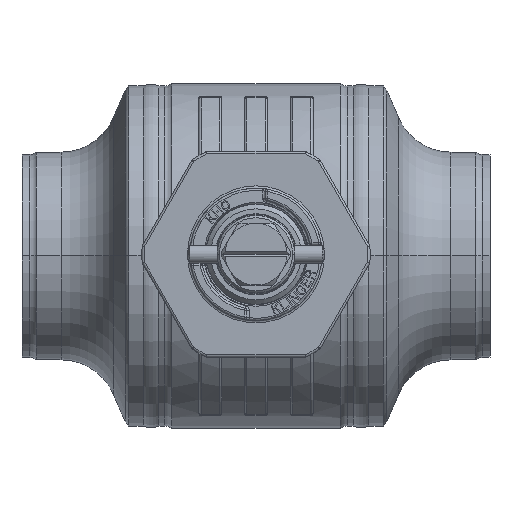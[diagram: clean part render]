
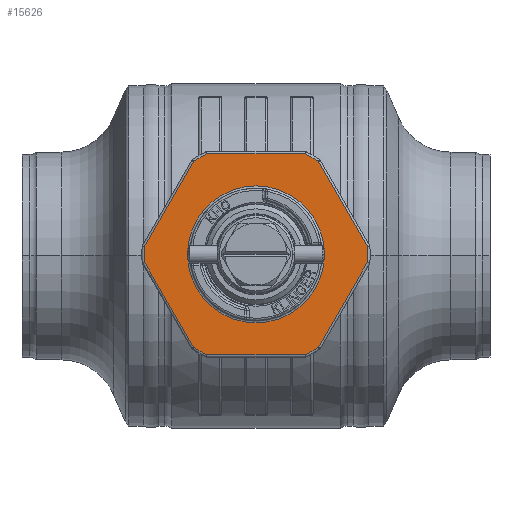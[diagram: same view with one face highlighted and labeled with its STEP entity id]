
A CAD part, top view. The second image highlights one B-rep face of the part: STEP entity #15626.
In plain terms, the highlighted planar face has unit normal (0, 0, 1).
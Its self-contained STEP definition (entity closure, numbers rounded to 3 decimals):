
#1506=CARTESIAN_POINT('',(0.,0.,406.));
#1507=DIRECTION('',(0.,0.,-1.));
#1508=DIRECTION('',(-0.558,0.83,0.));
#1509=AXIS2_PLACEMENT_3D('',#1506,#1507,#1508);
#1511=DIRECTION('',(-1.,0.,0.));
#1512=VECTOR('',#1511,43.128);
#1513=CARTESIAN_POINT('',(21.564,44.,406.));
#1514=LINE('',#1513,#1512);
#1515=CARTESIAN_POINT('',(0.,0.,406.));
#1516=DIRECTION('',(0.,0.,1.));
#1517=DIRECTION('',(0.558,0.83,0.));
#1518=AXIS2_PLACEMENT_3D('',#1515,#1516,#1517);
#1520=DIRECTION('',(-0.5,0.866,0.));
#1521=VECTOR('',#1520,43.128);
#1522=CARTESIAN_POINT('',(48.887,3.325,406.));
#1523=LINE('',#1522,#1521);
#1524=CARTESIAN_POINT('',(0.,0.,406.));
#1525=DIRECTION('',(0.,0.,1.));
#1526=DIRECTION('',(0.998,-0.068,0.));
#1527=AXIS2_PLACEMENT_3D('',#1524,#1525,#1526);
#1529=DIRECTION('',(0.5,0.866,0.));
#1530=VECTOR('',#1529,43.128);
#1531=CARTESIAN_POINT('',(27.323,-40.675,406.));
#1532=LINE('',#1531,#1530);
#1533=CARTESIAN_POINT('',(0.,0.,406.));
#1534=DIRECTION('',(0.,0.,1.));
#1535=DIRECTION('',(0.44,-0.898,0.));
#1536=AXIS2_PLACEMENT_3D('',#1533,#1534,#1535);
#1538=DIRECTION('',(1.,0.,0.));
#1539=VECTOR('',#1538,43.128);
#1540=CARTESIAN_POINT('',(-21.564,-44.,406.));
#1541=LINE('',#1540,#1539);
#1542=CARTESIAN_POINT('',(0.,0.,406.));
#1543=DIRECTION('',(0.,0.,1.));
#1544=DIRECTION('',(-0.558,-0.83,0.));
#1545=AXIS2_PLACEMENT_3D('',#1542,#1543,#1544);
#1547=DIRECTION('',(0.5,-0.866,0.));
#1548=VECTOR('',#1547,43.128);
#1549=CARTESIAN_POINT('',(-48.887,-3.325,406.));
#1550=LINE('',#1549,#1548);
#1551=CARTESIAN_POINT('',(0.,0.,406.));
#1552=DIRECTION('',(0.,0.,-1.));
#1553=DIRECTION('',(-0.998,-0.068,0.));
#1554=AXIS2_PLACEMENT_3D('',#1551,#1552,#1553);
#1556=DIRECTION('',(-0.5,-0.866,0.));
#1557=VECTOR('',#1556,43.128);
#1558=CARTESIAN_POINT('',(-27.323,40.675,406.));
#1559=LINE('',#1558,#1557);
#1560=CARTESIAN_POINT('',(0.,0.,406.));
#1561=DIRECTION('',(0.,0.,1.));
#1562=DIRECTION('',(1.,0.,0.));
#1563=AXIS2_PLACEMENT_3D('',#1560,#1561,#1562);
#1565=CARTESIAN_POINT('',(0.,0.,406.));
#1566=DIRECTION('',(0.,0.,1.));
#1567=DIRECTION('',(-1.,0.,0.));
#1568=AXIS2_PLACEMENT_3D('',#1565,#1566,#1567);
#12895=CARTESIAN_POINT('',(30.,0.,406.));
#12896=CARTESIAN_POINT('',(-30.,0.,406.));
#12897=VERTEX_POINT('',#12895);
#12898=VERTEX_POINT('',#12896);
#13077=CARTESIAN_POINT('',(-48.887,-3.325,406.));
#13078=CARTESIAN_POINT('',(-48.887,3.325,406.));
#13079=VERTEX_POINT('',#13077);
#13080=VERTEX_POINT('',#13078);
#13101=CARTESIAN_POINT('',(-27.323,40.675,406.));
#13102=VERTEX_POINT('',#13101);
#13103=CARTESIAN_POINT('',(-21.564,44.,406.));
#13104=VERTEX_POINT('',#13103);
#13122=CARTESIAN_POINT('',(-27.323,-40.675,406.));
#13124=VERTEX_POINT('',#13122);
#13127=CARTESIAN_POINT('',(-21.564,-44.,406.));
#13128=VERTEX_POINT('',#13127);
#13133=CARTESIAN_POINT('',(21.564,-44.,406.));
#13134=VERTEX_POINT('',#13133);
#13139=CARTESIAN_POINT('',(27.323,-40.675,406.));
#13140=VERTEX_POINT('',#13139);
#13145=CARTESIAN_POINT('',(48.887,-3.325,406.));
#13146=VERTEX_POINT('',#13145);
#13151=CARTESIAN_POINT('',(48.887,3.325,406.));
#13152=VERTEX_POINT('',#13151);
#13157=CARTESIAN_POINT('',(27.323,40.675,406.));
#13158=VERTEX_POINT('',#13157);
#13163=CARTESIAN_POINT('',(21.564,44.,406.));
#13164=VERTEX_POINT('',#13163);
#15590=CARTESIAN_POINT('',(0.,0.,406.));
#15591=DIRECTION('',(0.,0.,1.));
#15592=DIRECTION('',(1.,0.,0.));
#15593=AXIS2_PLACEMENT_3D('',#15590,#15591,#15592);
#15594=PLANE('',#15593);
#15596=ORIENTED_EDGE('',*,*,#15595,.T.);
#15598=ORIENTED_EDGE('',*,*,#15597,.F.);
#15600=ORIENTED_EDGE('',*,*,#15599,.F.);
#15602=ORIENTED_EDGE('',*,*,#15601,.F.);
#15604=ORIENTED_EDGE('',*,*,#15603,.F.);
#15606=ORIENTED_EDGE('',*,*,#15605,.F.);
#15608=ORIENTED_EDGE('',*,*,#15607,.F.);
#15610=ORIENTED_EDGE('',*,*,#15609,.F.);
#15612=ORIENTED_EDGE('',*,*,#15611,.F.);
#15614=ORIENTED_EDGE('',*,*,#15613,.F.);
#15616=ORIENTED_EDGE('',*,*,#15615,.T.);
#15618=ORIENTED_EDGE('',*,*,#15617,.F.);
#15619=EDGE_LOOP('',(#15596,#15598,#15600,#15602,#15604,#15606,#15608,#15610,
#15612,#15614,#15616,#15618));
#15620=FACE_OUTER_BOUND('',#15619,.F.);
#15622=ORIENTED_EDGE('',*,*,#15621,.T.);
#15623=ORIENTED_EDGE('',*,*,#15580,.T.);
#15624=EDGE_LOOP('',(#15622,#15623));
#15625=FACE_BOUND('',#15624,.F.);
#1510=CIRCLE('',#1509,49.);
#1519=CIRCLE('',#1518,49.);
#1528=CIRCLE('',#1527,49.);
#1537=CIRCLE('',#1536,49.);
#1546=CIRCLE('',#1545,49.);
#1555=CIRCLE('',#1554,49.);
#1564=CIRCLE('',#1563,30.);
#1569=CIRCLE('',#1568,30.);
#15580=EDGE_CURVE('',#12898,#12897,#1569,.T.);
#15595=EDGE_CURVE('',#13102,#13104,#1510,.T.);
#15597=EDGE_CURVE('',#13164,#13104,#1514,.T.);
#15599=EDGE_CURVE('',#13158,#13164,#1519,.T.);
#15601=EDGE_CURVE('',#13152,#13158,#1523,.T.);
#15603=EDGE_CURVE('',#13146,#13152,#1528,.T.);
#15605=EDGE_CURVE('',#13140,#13146,#1532,.T.);
#15607=EDGE_CURVE('',#13134,#13140,#1537,.T.);
#15609=EDGE_CURVE('',#13128,#13134,#1541,.T.);
#15611=EDGE_CURVE('',#13124,#13128,#1546,.T.);
#15613=EDGE_CURVE('',#13079,#13124,#1550,.T.);
#15615=EDGE_CURVE('',#13079,#13080,#1555,.T.);
#15617=EDGE_CURVE('',#13102,#13080,#1559,.T.);
#15621=EDGE_CURVE('',#12897,#12898,#1564,.T.);
#15626=ADVANCED_FACE('',(#15620,#15625),#15594,.T.);
